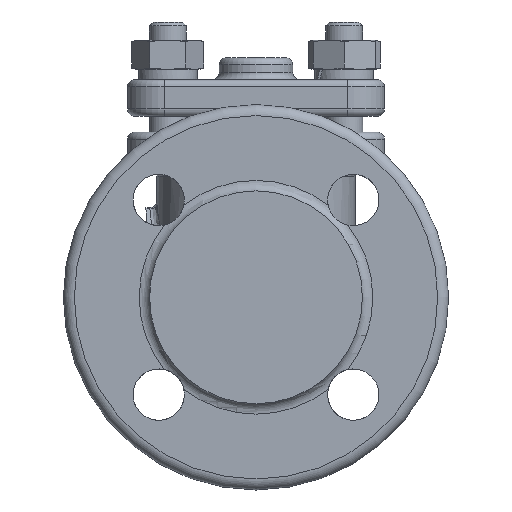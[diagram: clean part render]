
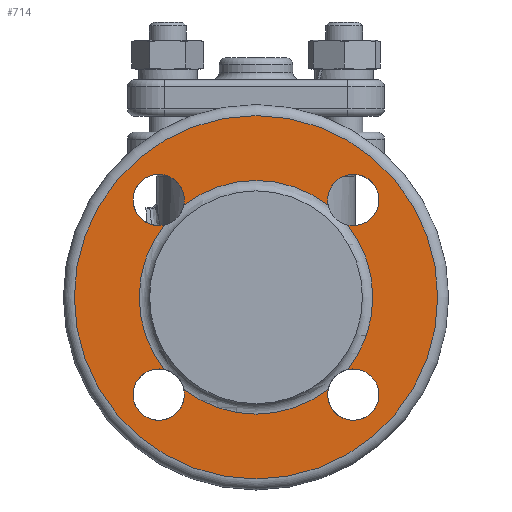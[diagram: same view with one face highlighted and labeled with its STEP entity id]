
A CAD part, front view. The second image highlights one B-rep face of the part: STEP entity #714.
In plain terms, the highlighted planar face has unit normal (0, -1, 0).
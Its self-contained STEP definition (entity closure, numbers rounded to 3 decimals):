
#165=PLANE('',#4409);
#494=FACE_BOUND('',#1279,.T.);
#495=FACE_BOUND('',#1280,.T.);
#714=ADVANCED_FACE('',(#494,#495),#165,.T.);
#1279=EDGE_LOOP('',(#1995));
#1280=EDGE_LOOP('',(#1996,#1997,#1998,#1999,#2000,#2001,#2002,#2003));
#1995=ORIENTED_EDGE('',*,*,#3567,.T.);
#1996=ORIENTED_EDGE('',*,*,#3568,.T.);
#1997=ORIENTED_EDGE('',*,*,#3569,.T.);
#1998=ORIENTED_EDGE('',*,*,#3570,.T.);
#1999=ORIENTED_EDGE('',*,*,#3571,.F.);
#2000=ORIENTED_EDGE('',*,*,#3572,.T.);
#2001=ORIENTED_EDGE('',*,*,#3573,.T.);
#2002=ORIENTED_EDGE('',*,*,#3574,.T.);
#2003=ORIENTED_EDGE('',*,*,#3575,.F.);
#3162=VERTEX_POINT('',#9042);
#3163=VERTEX_POINT('',#9044);
#3164=VERTEX_POINT('',#9045);
#3165=VERTEX_POINT('',#9047);
#3166=VERTEX_POINT('',#9049);
#3167=VERTEX_POINT('',#9051);
#3168=VERTEX_POINT('',#9053);
#3169=VERTEX_POINT('',#9055);
#3170=VERTEX_POINT('',#9057);
#3567=EDGE_CURVE('',#3162,#3162,#4115,.T.);
#3568=EDGE_CURVE('',#3163,#3164,#4116,.T.);
#3569=EDGE_CURVE('',#3164,#3165,#4117,.T.);
#3570=EDGE_CURVE('',#3165,#3166,#4118,.T.);
#3571=EDGE_CURVE('',#3167,#3166,#4119,.T.);
#3572=EDGE_CURVE('',#3167,#3168,#4120,.T.);
#3573=EDGE_CURVE('',#3168,#3169,#4121,.T.);
#3574=EDGE_CURVE('',#3169,#3170,#4122,.T.);
#3575=EDGE_CURVE('',#3163,#3170,#4123,.T.);
#4115=CIRCLE('',#4400,49.5);
#4116=CIRCLE('',#4401,31.828);
#4117=CIRCLE('',#4402,7.);
#4118=CIRCLE('',#4403,31.828);
#4119=CIRCLE('',#4404,7.);
#4120=CIRCLE('',#4405,31.828);
#4121=CIRCLE('',#4406,7.);
#4122=CIRCLE('',#4407,31.828);
#4123=CIRCLE('',#4408,7.);
#4400=AXIS2_PLACEMENT_3D('',#9041,#5022,#5023);
#4401=AXIS2_PLACEMENT_3D('',#9043,#5024,#5025);
#4402=AXIS2_PLACEMENT_3D('',#9046,#5026,#5027);
#4403=AXIS2_PLACEMENT_3D('',#9048,#5028,#5029);
#4404=AXIS2_PLACEMENT_3D('',#9050,#5030,#5031);
#4405=AXIS2_PLACEMENT_3D('',#9052,#5032,#5033);
#4406=AXIS2_PLACEMENT_3D('',#9054,#5034,#5035);
#4407=AXIS2_PLACEMENT_3D('',#9056,#5036,#5037);
#4408=AXIS2_PLACEMENT_3D('',#9058,#5038,#5039);
#4409=AXIS2_PLACEMENT_3D('',#9059,#5040,#5041);
#5022=DIRECTION('',(0.,-1.,0.));
#5023=DIRECTION('',(1.,0.,0.));
#5024=DIRECTION('',(0.,1.,0.));
#5025=DIRECTION('',(1.,0.,0.));
#5026=DIRECTION('',(0.,1.,0.));
#5027=DIRECTION('',(1.,0.,0.));
#5028=DIRECTION('',(0.,1.,0.));
#5029=DIRECTION('',(1.,0.,0.));
#5030=DIRECTION('',(0.,-1.,0.));
#5031=DIRECTION('',(1.,0.,0.));
#5032=DIRECTION('',(0.,1.,0.));
#5033=DIRECTION('',(1.,0.,0.));
#5034=DIRECTION('',(0.,1.,0.));
#5035=DIRECTION('',(1.,0.,0.));
#5036=DIRECTION('',(0.,1.,0.));
#5037=DIRECTION('',(1.,0.,0.));
#5038=DIRECTION('',(0.,-1.,0.));
#5039=DIRECTION('',(1.,0.,0.));
#5040=DIRECTION('',(0.,-1.,0.));
#5041=DIRECTION('',(1.,0.,0.));
#9041=CARTESIAN_POINT('',(21.5,-73.,0.));
#9042=CARTESIAN_POINT('',(71.,-73.,0.));
#9043=CARTESIAN_POINT('',(21.5,-73.,0.));
#9044=CARTESIAN_POINT('',(1.821,-73.,25.015));
#9045=CARTESIAN_POINT('',(41.179,-73.,25.015));
#9046=CARTESIAN_POINT('',(48.017,-73.,26.517));
#9047=CARTESIAN_POINT('',(46.515,-73.,19.679));
#9048=CARTESIAN_POINT('',(21.5,-73.,0.));
#9049=CARTESIAN_POINT('',(46.515,-73.,-19.679));
#9050=CARTESIAN_POINT('',(48.017,-73.,-26.517));
#9051=CARTESIAN_POINT('',(41.179,-73.,-25.015));
#9052=CARTESIAN_POINT('',(21.5,-73.,0.));
#9053=CARTESIAN_POINT('',(1.821,-73.,-25.015));
#9054=CARTESIAN_POINT('',(-5.017,-73.,-26.517));
#9055=CARTESIAN_POINT('',(-3.515,-73.,-19.679));
#9056=CARTESIAN_POINT('',(21.5,-73.,0.));
#9057=CARTESIAN_POINT('',(-3.515,-73.,19.679));
#9058=CARTESIAN_POINT('',(-5.017,-73.,26.517));
#9059=CARTESIAN_POINT('',(21.5,-73.,29.));
